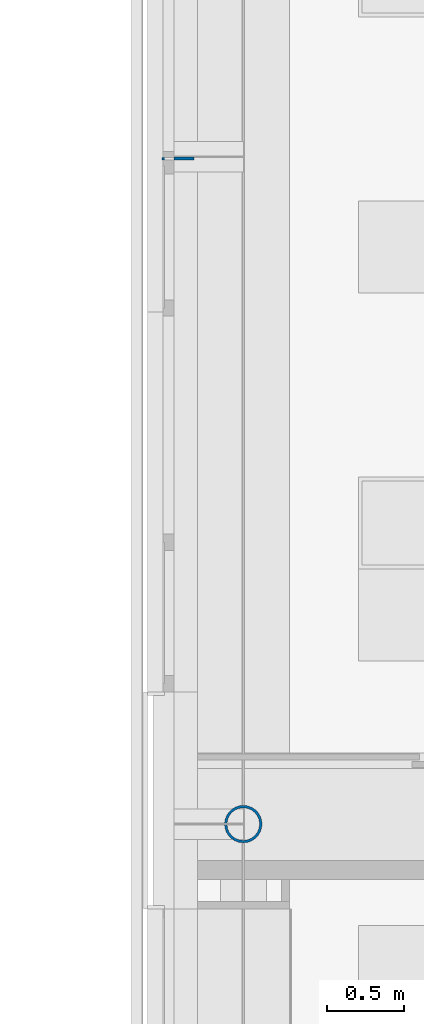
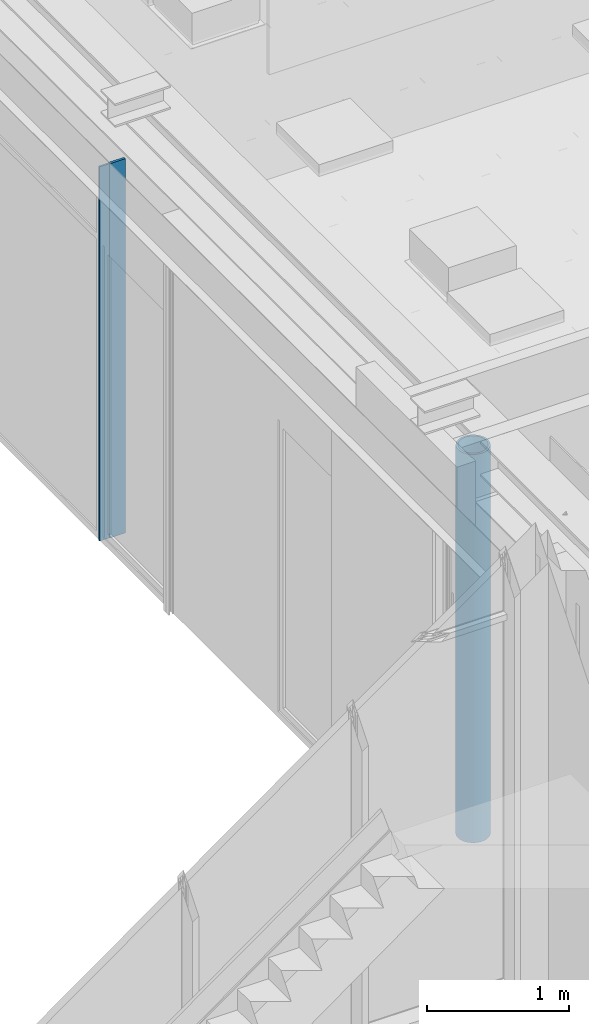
# One storey, part 14 of 347: 3 columns.
"""IFC2X3 building model written with IfcOpenShell, lengths in millimetres."""

from ifc_helpers import new_model, entity, si_unit, converted_unit, derived_unit, money_unit, direction, frame, origin_with_axes, place, context, subcontext, project, spatial, faceted_brep, material, type_object, element, save


model = new_model("IFC2X3")

# Units and contexts
model_context = context("Model", 3, precision=0.01, world=origin_with_axes(), true_north=direction((0.0, 1.0)))
plan_context = context("Plan", 3, precision=0.01, world=origin_with_axes(), true_north=direction((0.0, 1.0)))
body_context = subcontext(model_context, "Body", "Model", "MODEL_VIEW")
ifc_project = project(units=[si_unit("LENGTHUNIT", "METRE", prefix="MILLI"), si_unit("AREAUNIT", "SQUARE_METRE"), si_unit("VOLUMEUNIT", "CUBIC_METRE"), converted_unit("PLANEANGLEUNIT", "DEGREE", entity("IfcPlaneAngleMeasure", 0.0174532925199), si_unit("PLANEANGLEUNIT", "RADIAN"), dimensions=[0, 0, 0, 0, 0, 0, 0]), money_unit("EUR"), converted_unit("TIMEUNIT", "Year", entity("IfcTimeMeasure", 31556926.0), si_unit("TIMEUNIT", "SECOND"), dimensions=[0, 0, 1, 0, 0, 0, 0]), si_unit("MASSUNIT", "GRAM", prefix="KILO"), si_unit("THERMODYNAMICTEMPERATUREUNIT", "DEGREE_CELSIUS"), si_unit("LUMINOUSINTENSITYUNIT", "LUMEN"), si_unit("ENERGYUNIT", "JOULE", prefix="MEGA"), derived_unit("THERMALCONDUCTANCEUNIT", [(si_unit("POWERUNIT", "WATT"), 1), (si_unit("LENGTHUNIT", "METRE"), -1), (si_unit("THERMODYNAMICTEMPERATUREUNIT", "KELVIN"), -1)]), derived_unit("SPECIFICHEATCAPACITYUNIT", [(si_unit("ENERGYUNIT", "JOULE"), 1), (si_unit("MASSUNIT", "GRAM", prefix="KILO"), -1), (si_unit("THERMODYNAMICTEMPERATUREUNIT", "KELVIN"), -1)]), derived_unit("MASSDENSITYUNIT", [(si_unit("MASSUNIT", "GRAM", prefix="KILO"), 1), (si_unit("VOLUMEUNIT", "CUBIC_METRE"), -1)])], contexts=[model_context, plan_context])

# Site, building, storey
site_placement = place(None, origin_with_axes())
site = spatial("IfcSite", under=ifc_project, at=site_placement, Name="Site", CompositionType="ELEMENT")
building_placement = place(site_placement, origin_with_axes())
building = spatial("IfcBuilding", under=site, at=building_placement, Name="Naam gebouw", CompositionType="ELEMENT")
storey_placement = place(building_placement, origin_with_axes())
storey = spatial("IfcBuildingStorey", under=building, at=storey_placement, Name="begane grond", CompositionType="ELEMENT", Elevation=0.0)

# Columns
ifc_material_1 = material(Name="Metaal - Staal C wit")
column_type_1 = type_object("IfcColumnType", Name="Lucht D245", PredefinedType="COLUMN")
column_1_placement = place(storey_placement, frame((24575.0, 20350.0, -70.0), z_axis=(0.0, 0.0, 1.0), x_axis=(1.0, 0.0, 0.0)))
element("IfcColumn", 1, at=column_1_placement, inside=storey, type_object=column_type_1, material=ifc_material_1, Name="28_kolom ø 273mm", ObjectType="COLUMN", context=body_context, shape_type="Brep", body=[
    faceted_brep([(-122.25, 0.0, 0.0), (-119.184937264, -27.2031841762, 0.0), (-119.184937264, -27.2031841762, 3330.0), (-122.25, 0.0, 3330.0), (-119.184937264, 27.2031841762, 0.0), (-110.143444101, 53.0422871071, 0.0), (-95.5788987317, 76.2216282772, 0.0), (-76.2216282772, 95.5788987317, 0.0), (-53.0422871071, 110.143444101, 0.0), (-27.2031841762, 119.184937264, 0.0), (0.0, 122.25, 0.0), (27.2031841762, 119.184937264, 0.0), (53.0422871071, 110.143444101, 0.0), (76.2216282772, 95.5788987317, 0.0), (95.5788987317, 76.2216282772, 0.0), (110.143444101, 53.0422871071, 0.0), (119.184937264, 27.2031841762, 0.0), (122.25, 0.0, 0.0), (119.184937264, -27.2031841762, 0.0), (110.143444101, -53.0422871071, 0.0), (95.5788987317, -76.2216282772, 0.0), (76.2216282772, -95.5788987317, 0.0), (53.0422871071, -110.143444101, 0.0), (27.2031841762, -119.184937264, 0.0), (0.0, -122.25, 0.0), (-27.2031841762, -119.184937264, 0.0), (-53.0422871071, -110.143444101, 0.0), (-76.2216282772, -95.5788987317, 0.0), (-95.5788987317, -76.2216282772, 0.0), (-110.143444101, -53.0422871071, 0.0), (-106.25, 0.0, 0.0), (-102.629619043, -27.4995235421, 0.0), (-92.0151991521, -53.125, 0.0), (-75.1300955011, -75.1300955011, 0.0), (-53.125, -92.0151991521, 0.0), (-27.4995235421, -102.629619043, 0.0), (0.0, -106.25, 0.0), (27.4995235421, -102.629619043, 0.0), (53.125, -92.0151991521, 0.0), (75.1300955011, -75.1300955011, 0.0), (92.0151991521, -53.125, 0.0), (102.629619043, -27.4995235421, 0.0), (106.25, 0.0, 0.0), (102.629619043, 27.4995235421, 0.0), (92.0151991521, 53.125, 0.0), (75.1300955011, 75.1300955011, 0.0), (53.125, 92.0151991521, 0.0), (27.4995235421, 102.629619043, 0.0), (0.0, 106.25, 0.0), (-27.4995235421, 102.629619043, 0.0), (-53.125, 92.0151991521, 0.0), (-75.1300955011, 75.1300955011, 0.0), (-92.0151991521, 53.125, 0.0), (-102.629619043, 27.4995235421, 0.0), (-110.143444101, -53.0422871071, 3330.0), (-95.5788987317, -76.2216282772, 3330.0), (-76.2216282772, -95.5788987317, 3330.0), (-53.0422871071, -110.143444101, 3330.0), (-27.2031841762, -119.184937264, 3330.0), (0.0, -122.25, 3330.0), (27.2031841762, -119.184937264, 3330.0), (53.0422871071, -110.143444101, 3330.0), (76.2216282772, -95.5788987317, 3330.0), (95.5788987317, -76.2216282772, 3330.0), (110.143444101, -53.0422871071, 3330.0), (119.184937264, -27.2031841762, 3330.0), (122.25, 0.0, 3330.0), (119.184937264, 27.2031841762, 3330.0), (110.143444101, 53.0422871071, 3330.0), (95.5788987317, 76.2216282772, 3330.0), (76.2216282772, 95.5788987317, 3330.0), (53.0422871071, 110.143444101, 3330.0), (27.2031841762, 119.184937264, 3330.0), (0.0, 122.25, 3330.0), (-27.2031841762, 119.184937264, 3330.0), (-53.0422871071, 110.143444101, 3330.0), (-76.2216282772, 95.5788987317, 3330.0), (-95.5788987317, 76.2216282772, 3330.0), (-110.143444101, 53.0422871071, 3330.0), (-119.184937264, 27.2031841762, 3330.0), (-106.25, 0.0, 3330.0), (-102.629619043, 27.4995235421, 3330.0), (-92.0151991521, 53.125, 3330.0), (-75.1300955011, 75.1300955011, 3330.0), (-53.125, 92.0151991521, 3330.0), (-27.4995235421, 102.629619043, 3330.0), (0.0, 106.25, 3330.0), (27.4995235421, 102.629619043, 3330.0), (53.125, 92.0151991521, 3330.0), (75.1300955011, 75.1300955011, 3330.0), (92.0151991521, 53.125, 3330.0), (102.629619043, 27.4995235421, 3330.0), (106.25, 0.0, 3330.0), (102.629619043, -27.4995235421, 3330.0), (92.0151991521, -53.125, 3330.0), (75.1300955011, -75.1300955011, 3330.0), (53.125, -92.0151991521, 3330.0), (27.4995235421, -102.629619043, 3330.0), (0.0, -106.25, 3330.0), (-27.4995235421, -102.629619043, 3330.0), (-53.125, -92.0151991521, 3330.0), (-75.1300955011, -75.1300955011, 3330.0), (-92.0151991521, -53.125, 3330.0), (-102.629619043, -27.4995235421, 3330.0)], [[[0, 1, 2, 3]], [[0, 4, 5, 6, 7, 8, 9, 10, 11, 12, 13, 14, 15, 16, 17, 18, 19, 20, 21, 22, 23, 24, 25, 26, 27, 28, 29, 1], [30, 31, 32, 33, 34, 35, 36, 37, 38, 39, 40, 41, 42, 43, 44, 45, 46, 47, 48, 49, 50, 51, 52, 53]], [[1, 29, 54, 2]], [[3, 2, 54, 55, 56, 57, 58, 59, 60, 61, 62, 63, 64, 65, 66, 67, 68, 69, 70, 71, 72, 73, 74, 75, 76, 77, 78, 79], [80, 81, 82, 83, 84, 85, 86, 87, 88, 89, 90, 91, 92, 93, 94, 95, 96, 97, 98, 99, 100, 101, 102, 103]], [[4, 0, 3, 79]], [[5, 4, 79, 78]], [[6, 5, 78, 77]], [[7, 6, 77, 76]], [[8, 7, 76, 75]], [[9, 8, 75, 74]], [[10, 9, 74, 73]], [[11, 10, 73, 72]], [[12, 11, 72, 71]], [[13, 12, 71, 70]], [[14, 13, 70, 69]], [[15, 14, 69, 68]], [[16, 15, 68, 67]], [[17, 16, 67, 66]], [[18, 17, 66, 65]], [[19, 18, 65, 64]], [[20, 19, 64, 63]], [[21, 20, 63, 62]], [[22, 21, 62, 61]], [[23, 22, 61, 60]], [[24, 23, 60, 59]], [[25, 24, 59, 58]], [[26, 25, 58, 57]], [[27, 26, 57, 56]], [[28, 27, 56, 55]], [[29, 28, 55, 54]], [[31, 30, 80, 103]], [[32, 31, 103, 102]], [[33, 32, 102, 101]], [[34, 33, 101, 100]], [[35, 34, 100, 99]], [[36, 35, 99, 98]], [[37, 36, 98, 97]], [[38, 37, 97, 96]], [[39, 38, 96, 95]], [[40, 39, 95, 94]], [[41, 40, 94, 93]], [[42, 41, 93, 92]], [[43, 42, 92, 91]], [[44, 43, 91, 90]], [[45, 44, 90, 89]], [[46, 45, 89, 88]], [[47, 46, 88, 87]], [[48, 47, 87, 86]], [[49, 48, 86, 85]], [[50, 49, 85, 84]], [[51, 50, 84, 83]], [[52, 51, 83, 82]], [[53, 52, 82, 81]], [[30, 53, 81, 80]]]),
])
column_type_2 = type_object("IfcColumnType", Name="Metaal - Staal C wit 20 x 130", PredefinedType="COLUMN")
column_2_placement = place(storey_placement, frame((24190.0000757, 24687.4999997, -10.0), z_axis=(0.0, 0.0, 1.0), x_axis=(0.0, -1.0, 0.0)))
element("IfcColumn", 2, at=column_2_placement, inside=storey, type_object=column_type_2, material=ifc_material_1, Name="28_kolom koker", ObjectType="COLUMN", context=body_context, shape_type="Brep", body=[
    faceted_brep([(-10.0, -65.0, 3210.0), (-10.0, -65.0, 0.0), (10.0, -65.0, 0.0), (10.0, -65.0, 3210.0), (-10.0, 65.0, 3210.0), (-10.0, 65.0, 0.0), (10.0, 65.0, 0.0), (10.0, 65.0, 3210.0)], [[[0, 1, 2, 3]], [[4, 5, 1, 0]], [[2, 1, 5, 6]], [[3, 2, 6, 7]], [[4, 0, 3, 7]], [[7, 6, 5, 4]]]),
])
ifc_material_2 = material(Name="Metaal - Aluminium beige")
column_type_3 = type_object("IfcColumnType", Name="Metaal - Aluminium beige 15 x 80", PredefinedType="COLUMN")
column_3_placement = place(storey_placement, frame((24085.0, 24687.4999997, -10.0), z_axis=(0.0, 0.0, 1.0), x_axis=(0.0, -1.0, 0.0)))
element("IfcColumn", 3, at=column_3_placement, inside=storey, type_object=column_type_3, material=ifc_material_2, Name="28_kolom koker", ObjectType="COLUMN", context=body_context, shape_type="Brep", body=[
    faceted_brep([(-7.5, -40.0, 3210.0), (-7.5, -40.0, 0.0), (7.5, -40.0, 0.0), (7.5, -40.0, 3210.0), (-7.5, 40.0, 3210.0), (-7.5, 40.0, 0.0), (7.5, 40.0, 0.0), (7.5, 40.0, 3210.0)], [[[0, 1, 2, 3]], [[4, 5, 1, 0]], [[2, 1, 5, 6]], [[3, 2, 6, 7]], [[4, 0, 3, 7]], [[7, 6, 5, 4]]]),
])

save(model, "model.ifc")
